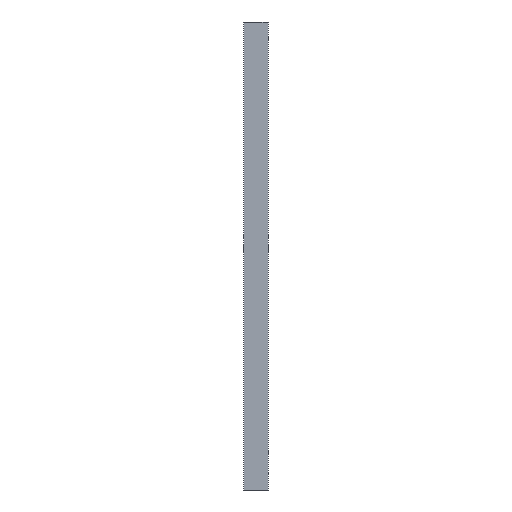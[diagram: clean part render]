
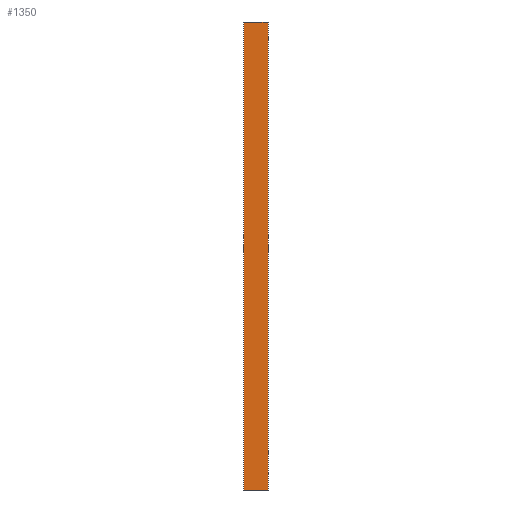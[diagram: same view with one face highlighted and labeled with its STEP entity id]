
A CAD part, left-side view. The second image highlights one B-rep face of the part: STEP entity #1350.
In plain terms, the highlighted planar face has unit normal (-1, 0, 0).
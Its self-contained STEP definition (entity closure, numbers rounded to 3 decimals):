
#28 = VERTEX_POINT ( 'NONE', #1086 ) ;
#29 = CARTESIAN_POINT ( 'NONE',  ( -21.25, 0., 0. ) ) ;
#59 = EDGE_LOOP ( 'NONE', ( #526, #1522, #907, #531 ) ) ;
#113 = EDGE_CURVE ( 'NONE', #1303, #28, #1654, .T. ) ;
#205 = VERTEX_POINT ( 'NONE', #549 ) ;
#234 = CARTESIAN_POINT ( 'NONE',  ( -21.25, 73., 0. ) ) ;
#241 = CARTESIAN_POINT ( 'NONE',  ( -21.25, 0., 1404. ) ) ;
#275 = DIRECTION ( 'NONE',  ( 0., -1., 0. ) ) ;
#526 = ORIENTED_EDGE ( 'NONE', *, *, #1355, .T. ) ;
#531 = ORIENTED_EDGE ( 'NONE', *, *, #1407, .T. ) ;
#549 = CARTESIAN_POINT ( 'NONE',  ( -21.25, 73., 1404. ) ) ;
#587 = EDGE_CURVE ( 'NONE', #205, #28, #1142, .T. ) ;
#731 = AXIS2_PLACEMENT_3D ( 'NONE', #1683, #1720, #1727 ) ;
#756 = CARTESIAN_POINT ( 'NONE',  ( -21.25, -0.75, 0. ) ) ;
#777 = VECTOR ( 'NONE', #275, 1000. ) ;
#787 = VERTEX_POINT ( 'NONE', #234 ) ;
#800 = VECTOR ( 'NONE', #1705, 1000. ) ;
#895 = DIRECTION ( 'NONE',  ( 0., 0., -1. ) ) ;
#907 = ORIENTED_EDGE ( 'NONE', *, *, #587, .F. ) ;
#1082 = VECTOR ( 'NONE', #895, 1000. ) ;
#1086 = CARTESIAN_POINT ( 'NONE',  ( -21.25, -0.75, 1404. ) ) ;
#1142 = LINE ( 'NONE', #241, #777 ) ;
#1303 = VERTEX_POINT ( 'NONE', #756 ) ;
#1305 = CARTESIAN_POINT ( 'NONE',  ( -21.25, -0.75, 1404. ) ) ;
#1313 = VECTOR ( 'NONE', #1347, 1000. ) ;
#1347 = DIRECTION ( 'NONE',  ( 0., 0., 1. ) ) ;
#1350 = ADVANCED_FACE ( 'NONE', ( #1548 ), #1594, .F. ) ;
#1355 = EDGE_CURVE ( 'NONE', #787, #1303, #1510, .T. ) ;
#1407 = EDGE_CURVE ( 'NONE', #205, #787, #1476, .T. ) ;
#1464 = CARTESIAN_POINT ( 'NONE',  ( -21.25, 73., 1404. ) ) ;
#1476 = LINE ( 'NONE', #1464, #1082 ) ;
#1510 = LINE ( 'NONE', #29, #800 ) ;
#1522 = ORIENTED_EDGE ( 'NONE', *, *, #113, .T. ) ;
#1548 = FACE_OUTER_BOUND ( 'NONE', #59, .T. ) ;
#1594 = PLANE ( 'NONE',  #731 ) ;
#1654 = LINE ( 'NONE', #1305, #1313 ) ;
#1683 = CARTESIAN_POINT ( 'NONE',  ( -21.25, 0., 1404. ) ) ;
#1705 = DIRECTION ( 'NONE',  ( 0., -1., 0. ) ) ;
#1720 = DIRECTION ( 'NONE',  ( 1., 0., 0. ) ) ;
#1727 = DIRECTION ( 'NONE',  ( 0., 0., -1. ) ) ;
